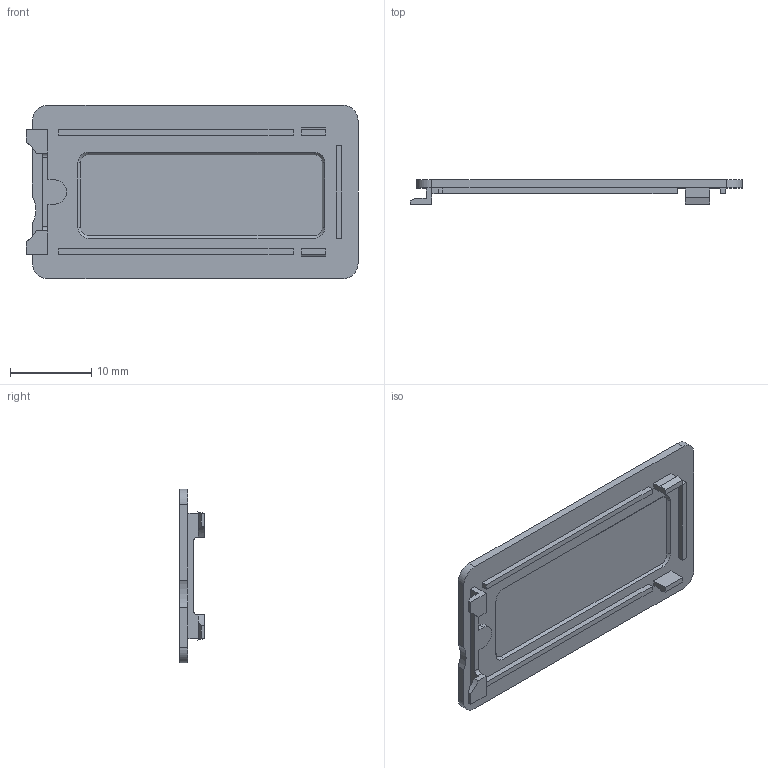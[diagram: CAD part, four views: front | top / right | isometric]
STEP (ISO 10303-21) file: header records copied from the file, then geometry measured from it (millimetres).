
FILE_DESCRIPTION( (''), '2;1');
FILE_NAME ('YS8Z-C.stp','2022-12-01T14:59:03',(''),(''),'spGate 12.6.6','','');
FILE_SCHEMA (('AUTOMOTIVE_DESIGN'));
Length unit declared in the file: millimetre
Bounding box: 40.9 x 3 x 21.4 mm (x, y, z)
Volume: 827.8 mm3; surface area: 2035.3 mm2
Topology: 1 solids, 1 shells, 73 faces, 192 edges, 128 vertices
Faces by surface type: plane 59, cylinder 10, bspline 4
Entity records: 3829 total; most frequent: CARTESIAN_POINT 449, ORIENTED_EDGE 384, DIRECTION 356, COLOUR_RGB 266, PRESENTATION_STYLE_ASSIGNMENT 266, STYLED_ITEM 266, EDGE_CURVE 192, DRAUGHTING_PRE_DEFINED_CURVE_FONT 192
